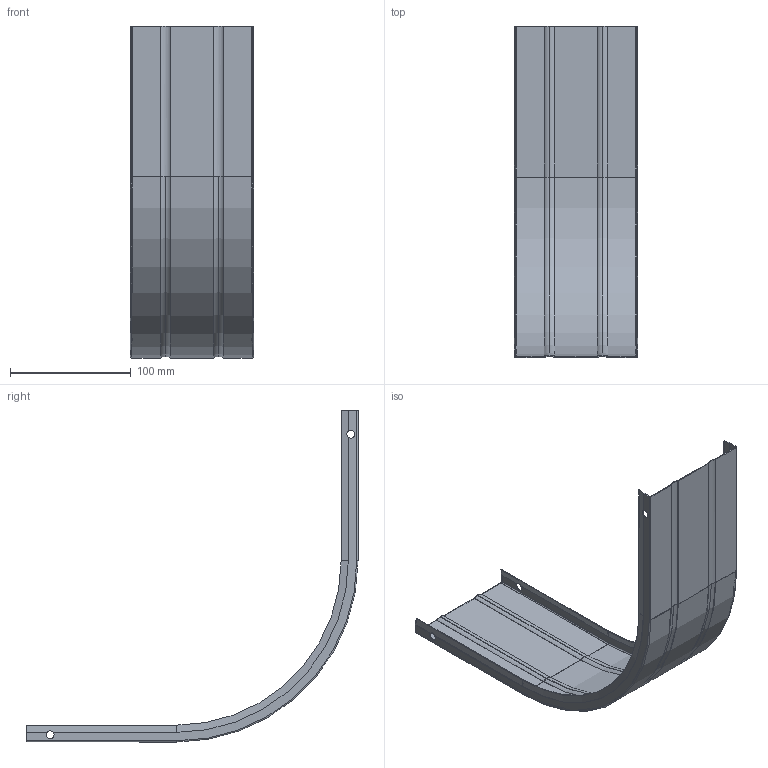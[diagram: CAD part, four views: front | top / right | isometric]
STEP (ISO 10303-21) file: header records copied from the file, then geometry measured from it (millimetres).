
FILE_DESCRIPTION (( 'STEP AP203' ), '1' );
FILE_NAME ('ERE_TAPA CXERC 100x100.step', '2023-07-28T14:52:44', ( '' ), ( '' ), 'SwSTEP 2.0', 'SolidWorks 2022', '' );
FILE_SCHEMA (( 'CONFIG_CONTROL_DESIGN' ));
Length unit declared in the file: millimetre
Products named in the file (1): ERE_TAPA CXERC 100x100
Bounding box: 102 x 275 x 275 mm (x, y, z)
Volume: 49817.9 mm3; surface area: 124883.4 mm2
Topology: 1 solids, 1 shells, 82 faces, 228 edges, 140 vertices
Faces by surface type: cylinder 36, plane 30, torus 12, cone 4
Entity records: 2709 total; most frequent: CARTESIAN_POINT 487, DIRECTION 474, ORIENTED_EDGE 456, EDGE_CURVE 228, AXIS2_PLACEMENT_3D 175, VERTEX_POINT 140, LINE 124, VECTOR 124
